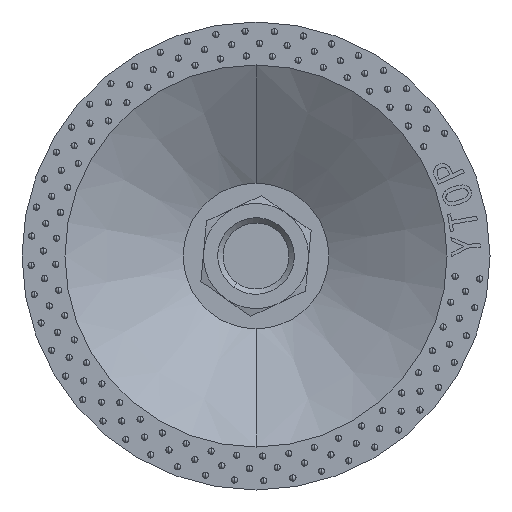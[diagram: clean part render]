
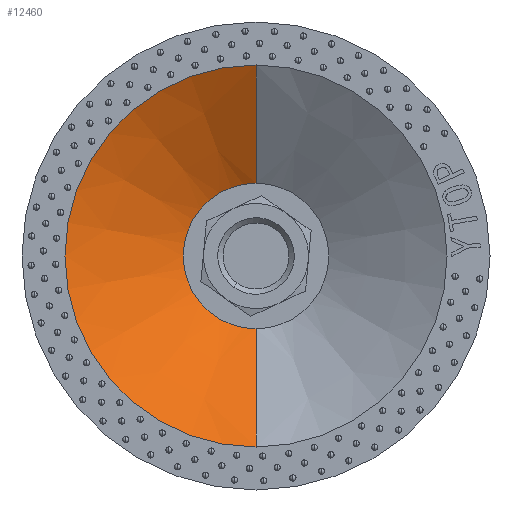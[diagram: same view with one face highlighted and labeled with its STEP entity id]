
A CAD part, front view. The second image highlights one B-rep face of the part: STEP entity #12460.
In plain terms, the highlighted conical face has half-angle 58.836 degrees and reference radius 40 mm.
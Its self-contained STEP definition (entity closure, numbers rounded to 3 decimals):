
#59 = ORIENTED_EDGE ( 'NONE', *, *, #14641, .T. ) ;
#232 = VECTOR ( 'NONE', #23935, 1000. ) ;
#329 = CARTESIAN_POINT ( 'NONE',  ( 0., 19.9, 15.25 ) ) ;
#495 = DIRECTION ( 'NONE',  ( 0., 0., 1. ) ) ;
#628 = EDGE_CURVE ( 'NONE', #16227, #2839, #22607, .T. ) ;
#1162 = AXIS2_PLACEMENT_3D ( 'NONE', #12805, #22313, #7118 ) ;
#2729 = EDGE_CURVE ( 'NONE', #6634, #2839, #22208, .T. ) ;
#2839 = VERTEX_POINT ( 'NONE', #22408 ) ;
#2916 = CARTESIAN_POINT ( 'NONE',  ( 0., 4.932, -40. ) ) ;
#5813 = CARTESIAN_POINT ( 'NONE',  ( 0., 4.932, -40. ) ) ;
#6634 = VERTEX_POINT ( 'NONE', #5813 ) ;
#7118 = DIRECTION ( 'NONE',  ( 0., 0., 1. ) ) ;
#7134 = LINE ( 'NONE', #2916, #232 ) ;
#9485 = EDGE_CURVE ( 'NONE', #14845, #6634, #7134, .T. ) ;
#10037 = ORIENTED_EDGE ( 'NONE', *, *, #2729, .F. ) ;
#10130 = CARTESIAN_POINT ( 'NONE',  ( 0., 4.932, 0. ) ) ;
#11147 = VECTOR ( 'NONE', #11424, 1000. ) ;
#11424 = DIRECTION ( 'NONE',  ( 0., -0.517, 0.856 ) ) ;
#12460 = ADVANCED_FACE ( 'NONE', ( #19639 ), #24458, .F. ) ;
#12805 = CARTESIAN_POINT ( 'NONE',  ( 0., 19.9, 0. ) ) ;
#13034 = DIRECTION ( 'NONE',  ( 0., 0., -1. ) ) ;
#13313 = CARTESIAN_POINT ( 'NONE',  ( 0., 4.932, 40. ) ) ;
#13332 = CARTESIAN_POINT ( 'NONE',  ( 0., 19.9, -15.25 ) ) ;
#14641 = EDGE_CURVE ( 'NONE', #14845, #16227, #18973, .T. ) ;
#14834 = AXIS2_PLACEMENT_3D ( 'NONE', #24739, #20766, #13034 ) ;
#14845 = VERTEX_POINT ( 'NONE', #13332 ) ;
#15744 = ORIENTED_EDGE ( 'NONE', *, *, #628, .T. ) ;
#16227 = VERTEX_POINT ( 'NONE', #329 ) ;
#18973 = CIRCLE ( 'NONE', #1162, 15.25 ) ;
#19639 = FACE_OUTER_BOUND ( 'NONE', #22040, .T. ) ;
#20122 = ORIENTED_EDGE ( 'NONE', *, *, #9485, .F. ) ;
#20766 = DIRECTION ( 'NONE',  ( 0., -1., 0. ) ) ;
#21819 = DIRECTION ( 'NONE',  ( 0., 1., 0. ) ) ;
#22040 = EDGE_LOOP ( 'NONE', ( #59, #15744, #10037, #20122 ) ) ;
#22208 = CIRCLE ( 'NONE', #23615, 40. ) ;
#22313 = DIRECTION ( 'NONE',  ( 0., 1., 0. ) ) ;
#22408 = CARTESIAN_POINT ( 'NONE',  ( 0., 4.932, 40. ) ) ;
#22607 = LINE ( 'NONE', #13313, #11147 ) ;
#23615 = AXIS2_PLACEMENT_3D ( 'NONE', #10130, #21819, #495 ) ;
#23935 = DIRECTION ( 'NONE',  ( 0., -0.517, -0.856 ) ) ;
#24458 = CONICAL_SURFACE ( 'NONE', #14834, 40., 1.027 ) ;
#24739 = CARTESIAN_POINT ( 'NONE',  ( 0., 4.932, 0. ) ) ;
